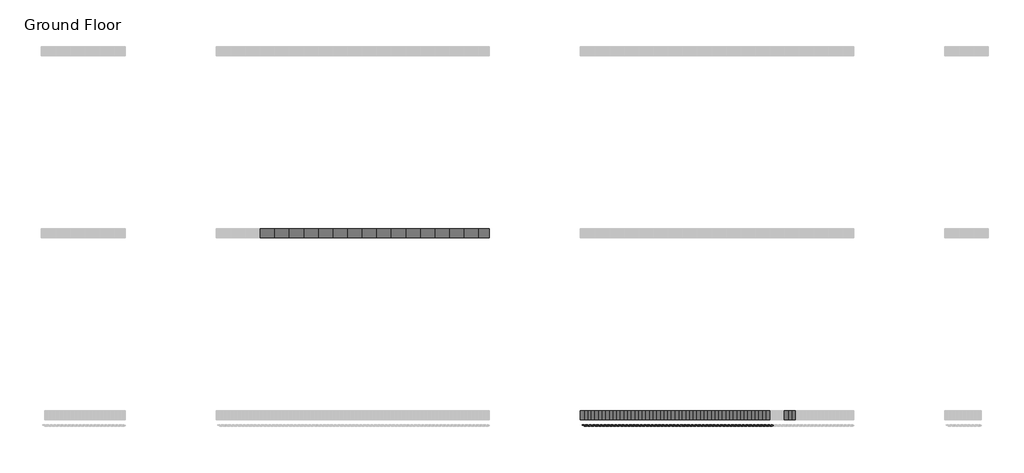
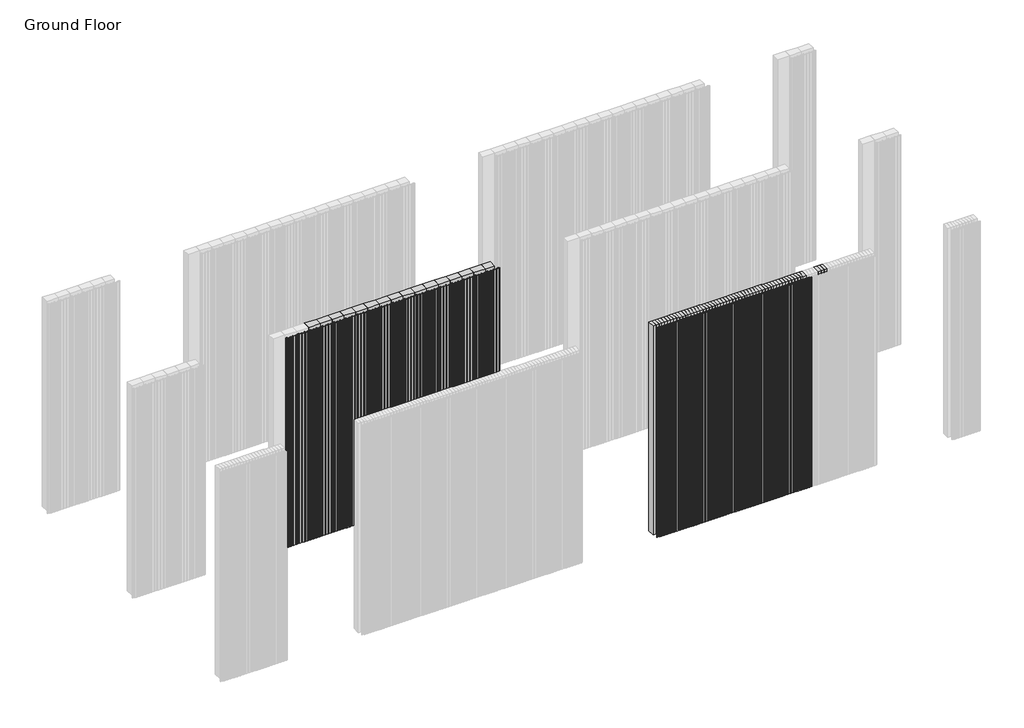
# One storey, part 26 of 350: 71 plates, 70 members.
"""IFC4 building model written with IfcOpenShell, lengths in millimetres."""

from ifc_helpers import new_model, si_unit, origin, place, context, project, spatial, transform, mapped, element, save
from components import rectangular_mullion_4c3290df, rectangular_mullion_73ab8564, empty_system_panel_empty_d822e783, empty_system_panel_empty_086c6263, empty_system_panel_empty_3b645525, empty_system_panel_empty_df7ddcff

model = new_model("IFC4")

# Units and contexts
model_context = context("Model", 3, world=origin())
ifc_project = project(units=[si_unit("LENGTHUNIT", "METRE", prefix="MILLI")], contexts=[model_context])

# Site, building, storey
site = spatial("IfcSite", under=ifc_project)
building = spatial("IfcBuilding", under=site)
storey = spatial("IfcBuildingStorey", under=building, Name="Ground Floor", Elevation=0.0)

# Members
placement = place(None, origin())
rectangular_mullion_shape = rectangular_mullion_4c3290df(model_context)
element("IfcMember", 1, ObjectType="Rectangular Mullion : Cladding_Aluminium_Modinex_AluSelekta_Castelation_ScreenClad_40_SpottedGum", at=placement, inside=storey, context=model_context, shape_type="MappedRepresentation", body=[
    mapped(rectangular_mullion_shape, transform((42996.4361642, 4968.2978302, 0.0), x_axis=(1.0, 0.0, 0.0), y_axis=(0.0, -1.0, 0.0), z_axis=(0.0, 0.0, -1.0))),
])
element("IfcMember", 2, ObjectType="Rectangular Mullion : Cladding_Aluminium_Modinex_AluSelekta_Castelation_ScreenClad_40_SpottedGum", at=placement, inside=storey, context=model_context, shape_type="MappedRepresentation", body=[
    mapped(rectangular_mullion_shape, transform((42956.4361642, 4968.2978302, 0.0), x_axis=(1.0, 0.0, 0.0), y_axis=(0.0, -1.0, 0.0), z_axis=(0.0, 0.0, -1.0))),
])
element("IfcMember", 3, ObjectType="Rectangular Mullion : Cladding_Aluminium_Modinex_AluSelekta_Castelation_ScreenClad_40_SpottedGum", at=placement, inside=storey, context=model_context, shape_type="MappedRepresentation", body=[
    mapped(rectangular_mullion_shape, transform((42916.4361642, 4968.2978302, 0.0), x_axis=(1.0, 0.0, 0.0), y_axis=(0.0, -1.0, 0.0), z_axis=(0.0, 0.0, -1.0))),
])
element("IfcMember", 4, ObjectType="Rectangular Mullion : Cladding_Aluminium_Modinex_AluSelekta_Castelation_ScreenClad_40_SpottedGum", at=placement, inside=storey, context=model_context, shape_type="MappedRepresentation", body=[
    mapped(rectangular_mullion_shape, transform((42876.4361642, 4968.2978302, 0.0), x_axis=(1.0, 0.0, 0.0), y_axis=(0.0, -1.0, 0.0), z_axis=(0.0, 0.0, -1.0))),
])
element("IfcMember", 5, ObjectType="Rectangular Mullion : Cladding_Aluminium_Modinex_AluSelekta_Castelation_ScreenClad_40_SpottedGum", at=placement, inside=storey, context=model_context, shape_type="MappedRepresentation", body=[
    mapped(rectangular_mullion_shape, transform((42836.4361642, 4968.2978302, 0.0), x_axis=(1.0, 0.0, 0.0), y_axis=(0.0, -1.0, 0.0), z_axis=(0.0, 0.0, -1.0))),
])
element("IfcMember", 6, ObjectType="Rectangular Mullion : Cladding_Aluminium_Modinex_AluSelekta_Castelation_ScreenClad_40_SpottedGum", at=placement, inside=storey, context=model_context, shape_type="MappedRepresentation", body=[
    mapped(rectangular_mullion_shape, transform((42796.4361642, 4968.2978302, 0.0), x_axis=(1.0, 0.0, 0.0), y_axis=(0.0, -1.0, 0.0), z_axis=(0.0, 0.0, -1.0))),
])
element("IfcMember", 7, ObjectType="Rectangular Mullion : Cladding_Aluminium_Modinex_AluSelekta_Castelation_ScreenClad_40_SpottedGum", at=placement, inside=storey, context=model_context, shape_type="MappedRepresentation", body=[
    mapped(rectangular_mullion_shape, transform((42756.4361642, 4968.2978302, 0.0), x_axis=(1.0, 0.0, 0.0), y_axis=(0.0, -1.0, 0.0), z_axis=(0.0, 0.0, -1.0))),
])
element("IfcMember", 8, ObjectType="Rectangular Mullion : Cladding_Aluminium_Modinex_AluSelekta_Castelation_ScreenClad_40_SpottedGum", at=placement, inside=storey, context=model_context, shape_type="MappedRepresentation", body=[
    mapped(rectangular_mullion_shape, transform((42716.4361642, 4968.2978302, 0.0), x_axis=(1.0, 0.0, 0.0), y_axis=(0.0, -1.0, 0.0), z_axis=(0.0, 0.0, -1.0))),
])
element("IfcMember", 9, ObjectType="Rectangular Mullion : Cladding_Aluminium_Modinex_AluSelekta_Castelation_ScreenClad_40_SpottedGum", at=placement, inside=storey, context=model_context, shape_type="MappedRepresentation", body=[
    mapped(rectangular_mullion_shape, transform((42676.4361642, 4968.2978302, 0.0), x_axis=(1.0, 0.0, 0.0), y_axis=(0.0, -1.0, 0.0), z_axis=(0.0, 0.0, -1.0))),
])
element("IfcMember", 10, ObjectType="Rectangular Mullion : Cladding_Aluminium_Modinex_AluSelekta_Castelation_ScreenClad_40_SpottedGum", at=placement, inside=storey, context=model_context, shape_type="MappedRepresentation", body=[
    mapped(rectangular_mullion_shape, transform((42636.4361642, 4968.2978302, 0.0), x_axis=(1.0, 0.0, 0.0), y_axis=(0.0, -1.0, 0.0), z_axis=(0.0, 0.0, -1.0))),
])
element("IfcMember", 11, ObjectType="Rectangular Mullion : Cladding_Aluminium_Modinex_AluSelekta_Castelation_ScreenClad_40_SpottedGum", at=placement, inside=storey, context=model_context, shape_type="MappedRepresentation", body=[
    mapped(rectangular_mullion_shape, transform((42596.4361642, 4968.2978302, 0.0), x_axis=(1.0, 0.0, 0.0), y_axis=(0.0, -1.0, 0.0), z_axis=(0.0, 0.0, -1.0))),
])
element("IfcMember", 12, ObjectType="Rectangular Mullion : Cladding_Aluminium_Modinex_AluSelekta_Castelation_ScreenClad_40_SpottedGum", at=placement, inside=storey, context=model_context, shape_type="MappedRepresentation", body=[
    mapped(rectangular_mullion_shape, transform((42556.4361642, 4968.2978302, 0.0), x_axis=(1.0, 0.0, 0.0), y_axis=(0.0, -1.0, 0.0), z_axis=(0.0, 0.0, -1.0))),
])
element("IfcMember", 13, ObjectType="Rectangular Mullion : Cladding_Aluminium_Modinex_AluSelekta_Castelation_ScreenClad_40_SpottedGum", at=placement, inside=storey, context=model_context, shape_type="MappedRepresentation", body=[
    mapped(rectangular_mullion_shape, transform((42516.4361642, 4968.2978302, 0.0), x_axis=(1.0, 0.0, 0.0), y_axis=(0.0, -1.0, 0.0), z_axis=(0.0, 0.0, -1.0))),
])
element("IfcMember", 14, ObjectType="Rectangular Mullion : Cladding_Aluminium_Modinex_AluSelekta_Castelation_ScreenClad_40_SpottedGum", at=placement, inside=storey, context=model_context, shape_type="MappedRepresentation", body=[
    mapped(rectangular_mullion_shape, transform((42476.4361642, 4968.2978302, 0.0), x_axis=(1.0, 0.0, 0.0), y_axis=(0.0, -1.0, 0.0), z_axis=(0.0, 0.0, -1.0))),
])
element("IfcMember", 15, ObjectType="Rectangular Mullion : Cladding_Aluminium_Modinex_AluSelekta_Castelation_ScreenClad_40_SpottedGum", at=placement, inside=storey, context=model_context, shape_type="MappedRepresentation", body=[
    mapped(rectangular_mullion_shape, transform((42436.4361642, 4968.2978302, 0.0), x_axis=(1.0, 0.0, 0.0), y_axis=(0.0, -1.0, 0.0), z_axis=(0.0, 0.0, -1.0))),
])
element("IfcMember", 16, ObjectType="Rectangular Mullion : Cladding_Aluminium_Modinex_AluSelekta_Castelation_ScreenClad_40_SpottedGum", at=placement, inside=storey, context=model_context, shape_type="MappedRepresentation", body=[
    mapped(rectangular_mullion_shape, transform((42396.4361642, 4968.2978302, 0.0), x_axis=(1.0, 0.0, 0.0), y_axis=(0.0, -1.0, 0.0), z_axis=(0.0, 0.0, -1.0))),
])
element("IfcMember", 17, ObjectType="Rectangular Mullion : Cladding_Aluminium_Modinex_AluSelekta_Castelation_ScreenClad_40_SpottedGum", at=placement, inside=storey, context=model_context, shape_type="MappedRepresentation", body=[
    mapped(rectangular_mullion_shape, transform((42356.4361642, 4968.2978302, 0.0), x_axis=(1.0, 0.0, 0.0), y_axis=(0.0, -1.0, 0.0), z_axis=(0.0, 0.0, -1.0))),
])
element("IfcMember", 18, ObjectType="Rectangular Mullion : Cladding_Aluminium_Modinex_AluSelekta_Castelation_ScreenClad_40_SpottedGum", at=placement, inside=storey, context=model_context, shape_type="MappedRepresentation", body=[
    mapped(rectangular_mullion_shape, transform((42316.4361642, 4968.2978302, 0.0), x_axis=(1.0, 0.0, 0.0), y_axis=(0.0, -1.0, 0.0), z_axis=(0.0, 0.0, -1.0))),
])
element("IfcMember", 19, ObjectType="Rectangular Mullion : Cladding_Aluminium_Modinex_AluSelekta_Castelation_ScreenClad_40_SpottedGum", at=placement, inside=storey, context=model_context, shape_type="MappedRepresentation", body=[
    mapped(rectangular_mullion_shape, transform((42276.4361642, 4968.2978302, 0.0), x_axis=(1.0, 0.0, 0.0), y_axis=(0.0, -1.0, 0.0), z_axis=(0.0, 0.0, -1.0))),
])
element("IfcMember", 20, ObjectType="Rectangular Mullion : Cladding_Aluminium_Modinex_AluSelekta_Castelation_ScreenClad_40_SpottedGum", at=placement, inside=storey, context=model_context, shape_type="MappedRepresentation", body=[
    mapped(rectangular_mullion_shape, transform((42236.4361642, 4968.2978302, 0.0), x_axis=(1.0, 0.0, 0.0), y_axis=(0.0, -1.0, 0.0), z_axis=(0.0, 0.0, -1.0))),
])
element("IfcMember", 21, ObjectType="Rectangular Mullion : Cladding_Aluminium_Modinex_AluSelekta_Castelation_ScreenClad_40_SpottedGum", at=placement, inside=storey, context=model_context, shape_type="MappedRepresentation", body=[
    mapped(rectangular_mullion_shape, transform((42196.4361642, 4968.2978302, 0.0), x_axis=(1.0, 0.0, 0.0), y_axis=(0.0, -1.0, 0.0), z_axis=(0.0, 0.0, -1.0))),
])
element("IfcMember", 22, ObjectType="Rectangular Mullion : Cladding_Aluminium_Modinex_AluSelekta_Castelation_ScreenClad_40_SpottedGum", at=placement, inside=storey, context=model_context, shape_type="MappedRepresentation", body=[
    mapped(rectangular_mullion_shape, transform((42156.4361642, 4968.2978302, 0.0), x_axis=(1.0, 0.0, 0.0), y_axis=(0.0, -1.0, 0.0), z_axis=(0.0, 0.0, -1.0))),
])
element("IfcMember", 23, ObjectType="Rectangular Mullion : Cladding_Aluminium_Modinex_AluSelekta_Castelation_ScreenClad_40_SpottedGum", at=placement, inside=storey, context=model_context, shape_type="MappedRepresentation", body=[
    mapped(rectangular_mullion_shape, transform((42116.4361642, 4968.2978302, 0.0), x_axis=(1.0, 0.0, 0.0), y_axis=(0.0, -1.0, 0.0), z_axis=(0.0, 0.0, -1.0))),
])
element("IfcMember", 24, ObjectType="Rectangular Mullion : Cladding_Aluminium_Modinex_AluSelekta_Castelation_ScreenClad_40_SpottedGum", at=placement, inside=storey, context=model_context, shape_type="MappedRepresentation", body=[
    mapped(rectangular_mullion_shape, transform((42076.4361642, 4968.2978302, 0.0), x_axis=(1.0, 0.0, 0.0), y_axis=(0.0, -1.0, 0.0), z_axis=(0.0, 0.0, -1.0))),
])
element("IfcMember", 25, ObjectType="Rectangular Mullion : Cladding_Aluminium_Modinex_AluSelekta_Castelation_ScreenClad_40_SpottedGum", at=placement, inside=storey, context=model_context, shape_type="MappedRepresentation", body=[
    mapped(rectangular_mullion_shape, transform((42036.4361642, 4968.2978302, 0.0), x_axis=(1.0, 0.0, 0.0), y_axis=(0.0, -1.0, 0.0), z_axis=(0.0, 0.0, -1.0))),
])
element("IfcMember", 26, ObjectType="Rectangular Mullion : Cladding_Aluminium_Modinex_AluSelekta_Castelation_ScreenClad_40_SpottedGum", at=placement, inside=storey, context=model_context, shape_type="MappedRepresentation", body=[
    mapped(rectangular_mullion_shape, transform((41996.4361642, 4968.2978302, 0.0), x_axis=(1.0, 0.0, 0.0), y_axis=(0.0, -1.0, 0.0), z_axis=(0.0, 0.0, -1.0))),
])
element("IfcMember", 27, ObjectType="Rectangular Mullion : Cladding_Aluminium_Modinex_AluSelekta_Castelation_ScreenClad_40_SpottedGum", at=placement, inside=storey, context=model_context, shape_type="MappedRepresentation", body=[
    mapped(rectangular_mullion_shape, transform((41956.4361642, 4968.2978302, 0.0), x_axis=(1.0, 0.0, 0.0), y_axis=(0.0, -1.0, 0.0), z_axis=(0.0, 0.0, -1.0))),
])
element("IfcMember", 28, ObjectType="Rectangular Mullion : Cladding_Aluminium_Modinex_AluSelekta_Castelation_ScreenClad_40_SpottedGum", at=placement, inside=storey, context=model_context, shape_type="MappedRepresentation", body=[
    mapped(rectangular_mullion_shape, transform((41916.4361642, 4968.2978302, 0.0), x_axis=(1.0, 0.0, 0.0), y_axis=(0.0, -1.0, 0.0), z_axis=(0.0, 0.0, -1.0))),
])
element("IfcMember", 29, ObjectType="Rectangular Mullion : Cladding_Aluminium_Modinex_AluSelekta_Castelation_ScreenClad_40_SpottedGum", at=placement, inside=storey, context=model_context, shape_type="MappedRepresentation", body=[
    mapped(rectangular_mullion_shape, transform((41876.4361642, 4968.2978302, 0.0), x_axis=(1.0, 0.0, 0.0), y_axis=(0.0, -1.0, 0.0), z_axis=(0.0, 0.0, -1.0))),
])
element("IfcMember", 30, ObjectType="Rectangular Mullion : Cladding_Aluminium_Modinex_AluSelekta_Castelation_ScreenClad_40_SpottedGum", at=placement, inside=storey, context=model_context, shape_type="MappedRepresentation", body=[
    mapped(rectangular_mullion_shape, transform((41836.4361642, 4968.2978302, 0.0), x_axis=(1.0, 0.0, 0.0), y_axis=(0.0, -1.0, 0.0), z_axis=(0.0, 0.0, -1.0))),
])
element("IfcMember", 31, ObjectType="Rectangular Mullion : Cladding_Aluminium_Modinex_AluSelekta_Castelation_ScreenClad_40_SpottedGum", at=placement, inside=storey, context=model_context, shape_type="MappedRepresentation", body=[
    mapped(rectangular_mullion_shape, transform((41796.4361642, 4968.2978302, 0.0), x_axis=(1.0, 0.0, 0.0), y_axis=(0.0, -1.0, 0.0), z_axis=(0.0, 0.0, -1.0))),
])
element("IfcMember", 32, ObjectType="Rectangular Mullion : Cladding_Aluminium_Modinex_AluSelekta_Castelation_ScreenClad_40_SpottedGum", at=placement, inside=storey, context=model_context, shape_type="MappedRepresentation", body=[
    mapped(rectangular_mullion_shape, transform((41756.4361642, 4968.2978302, 0.0), x_axis=(1.0, 0.0, 0.0), y_axis=(0.0, -1.0, 0.0), z_axis=(0.0, 0.0, -1.0))),
])
element("IfcMember", 33, ObjectType="Rectangular Mullion : Cladding_Aluminium_Modinex_AluSelekta_Castelation_ScreenClad_40_SpottedGum", at=placement, inside=storey, context=model_context, shape_type="MappedRepresentation", body=[
    mapped(rectangular_mullion_shape, transform((41716.4361642, 4968.2978302, 0.0), x_axis=(1.0, 0.0, 0.0), y_axis=(0.0, -1.0, 0.0), z_axis=(0.0, 0.0, -1.0))),
])
element("IfcMember", 34, ObjectType="Rectangular Mullion : Cladding_Aluminium_Modinex_AluSelekta_Castelation_ScreenClad_40_SpottedGum", at=placement, inside=storey, context=model_context, shape_type="MappedRepresentation", body=[
    mapped(rectangular_mullion_shape, transform((41676.4361642, 4968.2978302, 0.0), x_axis=(1.0, 0.0, 0.0), y_axis=(0.0, -1.0, 0.0), z_axis=(0.0, 0.0, -1.0))),
])
element("IfcMember", 35, ObjectType="Rectangular Mullion : Cladding_Aluminium_Modinex_AluSelekta_Castelation_ScreenClad_40_SpottedGum", at=placement, inside=storey, context=model_context, shape_type="MappedRepresentation", body=[
    mapped(rectangular_mullion_shape, transform((41636.4361642, 4968.2978302, 0.0), x_axis=(1.0, 0.0, 0.0), y_axis=(0.0, -1.0, 0.0), z_axis=(0.0, 0.0, -1.0))),
])
element("IfcMember", 36, ObjectType="Rectangular Mullion : Cladding_Aluminium_Modinex_AluSelekta_Castelation_ScreenClad_40_SpottedGum", at=placement, inside=storey, context=model_context, shape_type="MappedRepresentation", body=[
    mapped(rectangular_mullion_shape, transform((41596.4361642, 4968.2978302, 0.0), x_axis=(1.0, 0.0, 0.0), y_axis=(0.0, -1.0, 0.0), z_axis=(0.0, 0.0, -1.0))),
])
element("IfcMember", 37, ObjectType="Rectangular Mullion : Cladding_Aluminium_Modinex_AluSelekta_Castelation_ScreenClad_40_SpottedGum", at=placement, inside=storey, context=model_context, shape_type="MappedRepresentation", body=[
    mapped(rectangular_mullion_shape, transform((41556.4361642, 4968.2978302, 0.0), x_axis=(1.0, 0.0, 0.0), y_axis=(0.0, -1.0, 0.0), z_axis=(0.0, 0.0, -1.0))),
])
element("IfcMember", 38, ObjectType="Rectangular Mullion : Cladding_Aluminium_Modinex_AluSelekta_Castelation_ScreenClad_40_SpottedGum", at=placement, inside=storey, context=model_context, shape_type="MappedRepresentation", body=[
    mapped(rectangular_mullion_shape, transform((41516.4361642, 4968.2978302, 0.0), x_axis=(1.0, 0.0, 0.0), y_axis=(0.0, -1.0, 0.0), z_axis=(0.0, 0.0, -1.0))),
])
element("IfcMember", 39, ObjectType="Rectangular Mullion : Cladding_Aluminium_Modinex_AluSelekta_Castelation_ScreenClad_40_SpottedGum", at=placement, inside=storey, context=model_context, shape_type="MappedRepresentation", body=[
    mapped(rectangular_mullion_shape, transform((41476.4361642, 4968.2978302, 0.0), x_axis=(1.0, 0.0, 0.0), y_axis=(0.0, -1.0, 0.0), z_axis=(0.0, 0.0, -1.0))),
])
element("IfcMember", 40, ObjectType="Rectangular Mullion : Cladding_Aluminium_Modinex_AluSelekta_Castelation_ScreenClad_40_SpottedGum", at=placement, inside=storey, context=model_context, shape_type="MappedRepresentation", body=[
    mapped(rectangular_mullion_shape, transform((41436.4361642, 4968.2978302, 0.0), x_axis=(1.0, 0.0, 0.0), y_axis=(0.0, -1.0, 0.0), z_axis=(0.0, 0.0, -1.0))),
])
element("IfcMember", 41, ObjectType="Rectangular Mullion : Cladding_Aluminium_Modinex_AluSelekta_Castelation_ScreenClad_40_SpottedGum", at=placement, inside=storey, context=model_context, shape_type="MappedRepresentation", body=[
    mapped(rectangular_mullion_shape, transform((41396.4361642, 4968.2978302, 0.0), x_axis=(1.0, 0.0, 0.0), y_axis=(0.0, -1.0, 0.0), z_axis=(0.0, 0.0, -1.0))),
])
element("IfcMember", 42, ObjectType="Rectangular Mullion : Cladding_Aluminium_Modinex_AluSelekta_Castelation_ScreenClad_40_SpottedGum", at=placement, inside=storey, context=model_context, shape_type="MappedRepresentation", body=[
    mapped(rectangular_mullion_shape, transform((41356.4361642, 4968.2978302, 0.0), x_axis=(1.0, 0.0, 0.0), y_axis=(0.0, -1.0, 0.0), z_axis=(0.0, 0.0, -1.0))),
])
element("IfcMember", 43, ObjectType="Rectangular Mullion : Cladding_Aluminium_Modinex_AluSelekta_Castelation_ScreenClad_40_SpottedGum", at=placement, inside=storey, context=model_context, shape_type="MappedRepresentation", body=[
    mapped(rectangular_mullion_shape, transform((41316.4361642, 4968.2978302, 0.0), x_axis=(1.0, 0.0, 0.0), y_axis=(0.0, -1.0, 0.0), z_axis=(0.0, 0.0, -1.0))),
])
element("IfcMember", 44, ObjectType="Rectangular Mullion : Cladding_Aluminium_Modinex_AluSelekta_Castelation_ScreenClad_40_SpottedGum", at=placement, inside=storey, context=model_context, shape_type="MappedRepresentation", body=[
    mapped(rectangular_mullion_shape, transform((41276.4361642, 4968.2978302, 0.0), x_axis=(1.0, 0.0, 0.0), y_axis=(0.0, -1.0, 0.0), z_axis=(0.0, 0.0, -1.0))),
])
element("IfcMember", 45, ObjectType="Rectangular Mullion : Cladding_Aluminium_Modinex_AluSelekta_Castelation_ScreenClad_40_SpottedGum", at=placement, inside=storey, context=model_context, shape_type="MappedRepresentation", body=[
    mapped(rectangular_mullion_shape, transform((41236.4361642, 4968.2978302, 0.0), x_axis=(1.0, 0.0, 0.0), y_axis=(0.0, -1.0, 0.0), z_axis=(0.0, 0.0, -1.0))),
])
element("IfcMember", 46, ObjectType="Rectangular Mullion : Cladding_Aluminium_Modinex_AluSelekta_Castelation_ScreenClad_40_SpottedGum", at=placement, inside=storey, context=model_context, shape_type="MappedRepresentation", body=[
    mapped(rectangular_mullion_shape, transform((41196.4361642, 4968.2978302, 0.0), x_axis=(1.0, 0.0, 0.0), y_axis=(0.0, -1.0, 0.0), z_axis=(0.0, 0.0, -1.0))),
])
element("IfcMember", 47, ObjectType="Rectangular Mullion : Cladding_Aluminium_Modinex_AluSelekta_Castelation_ScreenClad_40_SpottedGum", at=placement, inside=storey, context=model_context, shape_type="MappedRepresentation", body=[
    mapped(rectangular_mullion_shape, transform((41156.4361642, 4968.2978302, 0.0), x_axis=(1.0, 0.0, 0.0), y_axis=(0.0, -1.0, 0.0), z_axis=(0.0, 0.0, -1.0))),
])
element("IfcMember", 48, ObjectType="Rectangular Mullion : Cladding_Aluminium_Modinex_AluSelekta_Castelation_ScreenClad_40_SpottedGum", at=placement, inside=storey, context=model_context, shape_type="MappedRepresentation", body=[
    mapped(rectangular_mullion_shape, transform((41116.4361642, 4968.2978302, 0.0), x_axis=(1.0, 0.0, 0.0), y_axis=(0.0, -1.0, 0.0), z_axis=(0.0, 0.0, -1.0))),
])
element("IfcMember", 49, ObjectType="Rectangular Mullion : Cladding_Aluminium_Modinex_AluSelekta_Castelation_ScreenClad_40_SpottedGum", at=placement, inside=storey, context=model_context, shape_type="MappedRepresentation", body=[
    mapped(rectangular_mullion_shape, transform((41076.4361642, 4968.2978302, 0.0), x_axis=(1.0, 0.0, 0.0), y_axis=(0.0, -1.0, 0.0), z_axis=(0.0, 0.0, -1.0))),
])
element("IfcMember", 50, ObjectType="Rectangular Mullion : Cladding_Aluminium_Modinex_AluSelekta_Castelation_ScreenClad_40_SpottedGum", at=placement, inside=storey, context=model_context, shape_type="MappedRepresentation", body=[
    mapped(rectangular_mullion_shape, transform((41036.4361642, 4968.2978302, 0.0), x_axis=(1.0, 0.0, 0.0), y_axis=(0.0, -1.0, 0.0), z_axis=(0.0, 0.0, -1.0))),
])
element("IfcMember", 51, ObjectType="Rectangular Mullion : Cladding_Aluminium_Modinex_AluSelekta_Castelation_ScreenClad_40_SpottedGum", at=placement, inside=storey, context=model_context, shape_type="MappedRepresentation", body=[
    mapped(rectangular_mullion_shape, transform((40996.4361642, 4968.2978302, 0.0), x_axis=(1.0, 0.0, 0.0), y_axis=(0.0, -1.0, 0.0), z_axis=(0.0, 0.0, -1.0))),
])
element("IfcMember", 52, ObjectType="Rectangular Mullion : Cladding_Aluminium_Modinex_AluSelekta_Castelation_ScreenClad_40_SpottedGum", at=placement, inside=storey, context=model_context, shape_type="MappedRepresentation", body=[
    mapped(rectangular_mullion_shape, transform((40956.4361642, 4968.2978302, 0.0), x_axis=(1.0, 0.0, 0.0), y_axis=(0.0, -1.0, 0.0), z_axis=(0.0, 0.0, -1.0))),
])
rectangular_mullion_2_shape = rectangular_mullion_73ab8564(model_context)
element("IfcMember", 53, ObjectType="Rectangular Mullion : Cladding_Aluminium_Modinex_AluSelekta_Castelation_ScreenClad_160_EnglishOak", at=placement, inside=storey, context=model_context, shape_type="MappedRepresentation", body=[
    mapped(rectangular_mullion_2_shape, transform((37076.4361642, 6968.2978302, 0.0), x_axis=(1.0, 0.0, 0.0), y_axis=(0.0, -1.0, 0.0), z_axis=(0.0, 0.0, -1.0))),
])
element("IfcMember", 54, ObjectType="Rectangular Mullion : Cladding_Aluminium_Modinex_AluSelekta_Castelation_ScreenClad_160_EnglishOak", at=placement, inside=storey, context=model_context, shape_type="MappedRepresentation", body=[
    mapped(rectangular_mullion_2_shape, transform((37236.4361642, 6968.2978302, 0.0), x_axis=(1.0, 0.0, 0.0), y_axis=(0.0, -1.0, 0.0), z_axis=(0.0, 0.0, -1.0))),
])
element("IfcMember", 55, ObjectType="Rectangular Mullion : Cladding_Aluminium_Modinex_AluSelekta_Castelation_ScreenClad_160_EnglishOak", at=placement, inside=storey, context=model_context, shape_type="MappedRepresentation", body=[
    mapped(rectangular_mullion_2_shape, transform((37396.4361642, 6968.2978302, 0.0), x_axis=(1.0, 0.0, 0.0), y_axis=(0.0, -1.0, 0.0), z_axis=(0.0, 0.0, -1.0))),
])
element("IfcMember", 56, ObjectType="Rectangular Mullion : Cladding_Aluminium_Modinex_AluSelekta_Castelation_ScreenClad_160_EnglishOak", at=placement, inside=storey, context=model_context, shape_type="MappedRepresentation", body=[
    mapped(rectangular_mullion_2_shape, transform((37556.4361642, 6968.2978302, 0.0), x_axis=(1.0, 0.0, 0.0), y_axis=(0.0, -1.0, 0.0), z_axis=(0.0, 0.0, -1.0))),
])
element("IfcMember", 57, ObjectType="Rectangular Mullion : Cladding_Aluminium_Modinex_AluSelekta_Castelation_ScreenClad_160_EnglishOak", at=placement, inside=storey, context=model_context, shape_type="MappedRepresentation", body=[
    mapped(rectangular_mullion_2_shape, transform((37716.4361642, 6968.2978302, 0.0), x_axis=(1.0, 0.0, 0.0), y_axis=(0.0, -1.0, 0.0), z_axis=(0.0, 0.0, -1.0))),
])
element("IfcMember", 58, ObjectType="Rectangular Mullion : Cladding_Aluminium_Modinex_AluSelekta_Castelation_ScreenClad_160_EnglishOak", at=placement, inside=storey, context=model_context, shape_type="MappedRepresentation", body=[
    mapped(rectangular_mullion_2_shape, transform((37876.4361642, 6968.2978302, 0.0), x_axis=(1.0, 0.0, 0.0), y_axis=(0.0, -1.0, 0.0), z_axis=(0.0, 0.0, -1.0))),
])
element("IfcMember", 59, ObjectType="Rectangular Mullion : Cladding_Aluminium_Modinex_AluSelekta_Castelation_ScreenClad_160_EnglishOak", at=placement, inside=storey, context=model_context, shape_type="MappedRepresentation", body=[
    mapped(rectangular_mullion_2_shape, transform((38036.4361642, 6968.2978302, 0.0), x_axis=(1.0, 0.0, 0.0), y_axis=(0.0, -1.0, 0.0), z_axis=(0.0, 0.0, -1.0))),
])
element("IfcMember", 60, ObjectType="Rectangular Mullion : Cladding_Aluminium_Modinex_AluSelekta_Castelation_ScreenClad_160_EnglishOak", at=placement, inside=storey, context=model_context, shape_type="MappedRepresentation", body=[
    mapped(rectangular_mullion_2_shape, transform((38196.4361642, 6968.2978302, 0.0), x_axis=(1.0, 0.0, 0.0), y_axis=(0.0, -1.0, 0.0), z_axis=(0.0, 0.0, -1.0))),
])
element("IfcMember", 61, ObjectType="Rectangular Mullion : Cladding_Aluminium_Modinex_AluSelekta_Castelation_ScreenClad_160_EnglishOak", at=placement, inside=storey, context=model_context, shape_type="MappedRepresentation", body=[
    mapped(rectangular_mullion_2_shape, transform((38356.4361642, 6968.2978302, 0.0), x_axis=(1.0, 0.0, 0.0), y_axis=(0.0, -1.0, 0.0), z_axis=(0.0, 0.0, -1.0))),
])
element("IfcMember", 62, ObjectType="Rectangular Mullion : Cladding_Aluminium_Modinex_AluSelekta_Castelation_ScreenClad_160_EnglishOak", at=placement, inside=storey, context=model_context, shape_type="MappedRepresentation", body=[
    mapped(rectangular_mullion_2_shape, transform((38516.4361642, 6968.2978302, 0.0), x_axis=(1.0, 0.0, 0.0), y_axis=(0.0, -1.0, 0.0), z_axis=(0.0, 0.0, -1.0))),
])
element("IfcMember", 63, ObjectType="Rectangular Mullion : Cladding_Aluminium_Modinex_AluSelekta_Castelation_ScreenClad_160_EnglishOak", at=placement, inside=storey, context=model_context, shape_type="MappedRepresentation", body=[
    mapped(rectangular_mullion_2_shape, transform((38676.4361642, 6968.2978302, 0.0), x_axis=(1.0, 0.0, 0.0), y_axis=(0.0, -1.0, 0.0), z_axis=(0.0, 0.0, -1.0))),
])
element("IfcMember", 64, ObjectType="Rectangular Mullion : Cladding_Aluminium_Modinex_AluSelekta_Castelation_ScreenClad_160_EnglishOak", at=placement, inside=storey, context=model_context, shape_type="MappedRepresentation", body=[
    mapped(rectangular_mullion_2_shape, transform((38836.4361642, 6968.2978302, 0.0), x_axis=(1.0, 0.0, 0.0), y_axis=(0.0, -1.0, 0.0), z_axis=(0.0, 0.0, -1.0))),
])
element("IfcMember", 65, ObjectType="Rectangular Mullion : Cladding_Aluminium_Modinex_AluSelekta_Castelation_ScreenClad_160_EnglishOak", at=placement, inside=storey, context=model_context, shape_type="MappedRepresentation", body=[
    mapped(rectangular_mullion_2_shape, transform((38996.4361642, 6968.2978302, 0.0), x_axis=(1.0, 0.0, 0.0), y_axis=(0.0, -1.0, 0.0), z_axis=(0.0, 0.0, -1.0))),
])
element("IfcMember", 66, ObjectType="Rectangular Mullion : Cladding_Aluminium_Modinex_AluSelekta_Castelation_ScreenClad_160_EnglishOak", at=placement, inside=storey, context=model_context, shape_type="MappedRepresentation", body=[
    mapped(rectangular_mullion_2_shape, transform((39156.4361642, 6968.2978302, 0.0), x_axis=(1.0, 0.0, 0.0), y_axis=(0.0, -1.0, 0.0), z_axis=(0.0, 0.0, -1.0))),
])
element("IfcMember", 67, ObjectType="Rectangular Mullion : Cladding_Aluminium_Modinex_AluSelekta_Castelation_ScreenClad_160_EnglishOak", at=placement, inside=storey, context=model_context, shape_type="MappedRepresentation", body=[
    mapped(rectangular_mullion_2_shape, transform((39316.4361642, 6968.2978302, 0.0), x_axis=(1.0, 0.0, 0.0), y_axis=(0.0, -1.0, 0.0), z_axis=(0.0, 0.0, -1.0))),
])
element("IfcMember", 68, ObjectType="Rectangular Mullion : Cladding_Aluminium_Modinex_AluSelekta_Castelation_ScreenClad_160_EnglishOak", at=placement, inside=storey, context=model_context, shape_type="MappedRepresentation", body=[
    mapped(rectangular_mullion_2_shape, transform((39476.4361642, 6968.2978302, 0.0), x_axis=(1.0, 0.0, 0.0), y_axis=(0.0, -1.0, 0.0), z_axis=(0.0, 0.0, -1.0))),
])
element("IfcMember", 69, ObjectType="Rectangular Mullion : Cladding_Aluminium_Modinex_AluSelekta_Castelation_ScreenClad_160_EnglishOak", at=placement, inside=storey, context=model_context, shape_type="MappedRepresentation", body=[
    mapped(rectangular_mullion_2_shape, transform((39636.4361642, 6968.2978302, 0.0), x_axis=(1.0, 0.0, 0.0), y_axis=(0.0, -1.0, 0.0), z_axis=(0.0, 0.0, -1.0))),
])
element("IfcMember", 70, ObjectType="Rectangular Mullion : Cladding_Aluminium_Modinex_AluSelekta_Castelation_ScreenClad_160_EnglishOak", at=placement, inside=storey, context=model_context, shape_type="MappedRepresentation", body=[
    mapped(rectangular_mullion_2_shape, transform((39796.4361642, 6968.2978302, 0.0), x_axis=(1.0, 0.0, 0.0), y_axis=(0.0, -1.0, 0.0), z_axis=(0.0, 0.0, -1.0))),
])

# Plates
empty_system_panel_empty_shape = empty_system_panel_empty_d822e783(model_context)
element("IfcPlate", 71, ObjectType="Empty System Panel : Empty", at=placement, inside=storey, context=model_context, shape_type="MappedRepresentation", body=[
    mapped(empty_system_panel_empty_shape, transform((40936.4361641, 4968.2978302, 0.0), x_axis=(1.0, 0.0, 0.0), y_axis=(0.0, 1.0, 0.0), z_axis=(0.0, 0.0, 1.0))),
])
empty_system_panel_empty_2_shape = empty_system_panel_empty_086c6263(model_context)
element("IfcPlate", 72, ObjectType="Empty System Panel : Empty", at=placement, inside=storey, context=model_context, shape_type="MappedRepresentation", body=[
    mapped(empty_system_panel_empty_2_shape, transform((43176.4361642, 4968.2978302, 0.0), x_axis=(1.0, 0.0, 0.0), y_axis=(0.0, 1.0, 0.0), z_axis=(0.0, 0.0, 1.0))),
])
element("IfcPlate", 73, ObjectType="Empty System Panel : Empty", at=placement, inside=storey, context=model_context, shape_type="MappedRepresentation", body=[
    mapped(empty_system_panel_empty_2_shape, transform((43216.4361642, 4968.2978302, 0.0), x_axis=(1.0, 0.0, 0.0), y_axis=(0.0, 1.0, 0.0), z_axis=(0.0, 0.0, 1.0))),
])
element("IfcPlate", 74, ObjectType="Empty System Panel : Empty", at=placement, inside=storey, context=model_context, shape_type="MappedRepresentation", body=[
    mapped(empty_system_panel_empty_2_shape, transform((43256.4361642, 4968.2978302, 0.0), x_axis=(1.0, 0.0, 0.0), y_axis=(0.0, 1.0, 0.0), z_axis=(0.0, 0.0, 1.0))),
])
element("IfcPlate", 75, ObjectType="Empty System Panel : Empty", at=placement, inside=storey, context=model_context, shape_type="MappedRepresentation", body=[
    mapped(empty_system_panel_empty_2_shape, transform((42976.4361642, 4968.2978302, 0.0), x_axis=(1.0, 0.0, 0.0), y_axis=(0.0, 1.0, 0.0), z_axis=(0.0, 0.0, 1.0))),
])
element("IfcPlate", 76, ObjectType="Empty System Panel : Empty", at=placement, inside=storey, context=model_context, shape_type="MappedRepresentation", body=[
    mapped(empty_system_panel_empty_2_shape, transform((42936.4361642, 4968.2978302, 0.0), x_axis=(1.0, 0.0, 0.0), y_axis=(0.0, 1.0, 0.0), z_axis=(0.0, 0.0, 1.0))),
])
element("IfcPlate", 77, ObjectType="Empty System Panel : Empty", at=placement, inside=storey, context=model_context, shape_type="MappedRepresentation", body=[
    mapped(empty_system_panel_empty_2_shape, transform((42896.4361642, 4968.2978302, 0.0), x_axis=(1.0, 0.0, 0.0), y_axis=(0.0, 1.0, 0.0), z_axis=(0.0, 0.0, 1.0))),
])
element("IfcPlate", 78, ObjectType="Empty System Panel : Empty", at=placement, inside=storey, context=model_context, shape_type="MappedRepresentation", body=[
    mapped(empty_system_panel_empty_2_shape, transform((42856.4361642, 4968.2978302, 0.0), x_axis=(1.0, 0.0, 0.0), y_axis=(0.0, 1.0, 0.0), z_axis=(0.0, 0.0, 1.0))),
])
element("IfcPlate", 79, ObjectType="Empty System Panel : Empty", at=placement, inside=storey, context=model_context, shape_type="MappedRepresentation", body=[
    mapped(empty_system_panel_empty_2_shape, transform((42816.4361642, 4968.2978302, 0.0), x_axis=(1.0, 0.0, 0.0), y_axis=(0.0, 1.0, 0.0), z_axis=(0.0, 0.0, 1.0))),
])
element("IfcPlate", 80, ObjectType="Empty System Panel : Empty", at=placement, inside=storey, context=model_context, shape_type="MappedRepresentation", body=[
    mapped(empty_system_panel_empty_2_shape, transform((42776.4361642, 4968.2978302, 0.0), x_axis=(1.0, 0.0, 0.0), y_axis=(0.0, 1.0, 0.0), z_axis=(0.0, 0.0, 1.0))),
])
element("IfcPlate", 81, ObjectType="Empty System Panel : Empty", at=placement, inside=storey, context=model_context, shape_type="MappedRepresentation", body=[
    mapped(empty_system_panel_empty_2_shape, transform((42736.4361642, 4968.2978302, 0.0), x_axis=(1.0, 0.0, 0.0), y_axis=(0.0, 1.0, 0.0), z_axis=(0.0, 0.0, 1.0))),
])
element("IfcPlate", 82, ObjectType="Empty System Panel : Empty", at=placement, inside=storey, context=model_context, shape_type="MappedRepresentation", body=[
    mapped(empty_system_panel_empty_2_shape, transform((42696.4361642, 4968.2978302, 0.0), x_axis=(1.0, 0.0, 0.0), y_axis=(0.0, 1.0, 0.0), z_axis=(0.0, 0.0, 1.0))),
])
element("IfcPlate", 83, ObjectType="Empty System Panel : Empty", at=placement, inside=storey, context=model_context, shape_type="MappedRepresentation", body=[
    mapped(empty_system_panel_empty_2_shape, transform((42656.4361642, 4968.2978302, 0.0), x_axis=(1.0, 0.0, 0.0), y_axis=(0.0, 1.0, 0.0), z_axis=(0.0, 0.0, 1.0))),
])
element("IfcPlate", 84, ObjectType="Empty System Panel : Empty", at=placement, inside=storey, context=model_context, shape_type="MappedRepresentation", body=[
    mapped(empty_system_panel_empty_2_shape, transform((42616.4361642, 4968.2978302, 0.0), x_axis=(1.0, 0.0, 0.0), y_axis=(0.0, 1.0, 0.0), z_axis=(0.0, 0.0, 1.0))),
])
element("IfcPlate", 85, ObjectType="Empty System Panel : Empty", at=placement, inside=storey, context=model_context, shape_type="MappedRepresentation", body=[
    mapped(empty_system_panel_empty_2_shape, transform((42576.4361642, 4968.2978302, 0.0), x_axis=(1.0, 0.0, 0.0), y_axis=(0.0, 1.0, 0.0), z_axis=(0.0, 0.0, 1.0))),
])
element("IfcPlate", 86, ObjectType="Empty System Panel : Empty", at=placement, inside=storey, context=model_context, shape_type="MappedRepresentation", body=[
    mapped(empty_system_panel_empty_2_shape, transform((42536.4361642, 4968.2978302, 0.0), x_axis=(1.0, 0.0, 0.0), y_axis=(0.0, 1.0, 0.0), z_axis=(0.0, 0.0, 1.0))),
])
element("IfcPlate", 87, ObjectType="Empty System Panel : Empty", at=placement, inside=storey, context=model_context, shape_type="MappedRepresentation", body=[
    mapped(empty_system_panel_empty_2_shape, transform((42496.4361642, 4968.2978302, 0.0), x_axis=(1.0, 0.0, 0.0), y_axis=(0.0, 1.0, 0.0), z_axis=(0.0, 0.0, 1.0))),
])
element("IfcPlate", 88, ObjectType="Empty System Panel : Empty", at=placement, inside=storey, context=model_context, shape_type="MappedRepresentation", body=[
    mapped(empty_system_panel_empty_2_shape, transform((42456.4361642, 4968.2978302, 0.0), x_axis=(1.0, 0.0, 0.0), y_axis=(0.0, 1.0, 0.0), z_axis=(0.0, 0.0, 1.0))),
])
element("IfcPlate", 89, ObjectType="Empty System Panel : Empty", at=placement, inside=storey, context=model_context, shape_type="MappedRepresentation", body=[
    mapped(empty_system_panel_empty_2_shape, transform((42416.4361642, 4968.2978302, 0.0), x_axis=(1.0, 0.0, 0.0), y_axis=(0.0, 1.0, 0.0), z_axis=(0.0, 0.0, 1.0))),
])
element("IfcPlate", 90, ObjectType="Empty System Panel : Empty", at=placement, inside=storey, context=model_context, shape_type="MappedRepresentation", body=[
    mapped(empty_system_panel_empty_2_shape, transform((42376.4361642, 4968.2978302, 0.0), x_axis=(1.0, 0.0, 0.0), y_axis=(0.0, 1.0, 0.0), z_axis=(0.0, 0.0, 1.0))),
])
element("IfcPlate", 91, ObjectType="Empty System Panel : Empty", at=placement, inside=storey, context=model_context, shape_type="MappedRepresentation", body=[
    mapped(empty_system_panel_empty_2_shape, transform((42336.4361642, 4968.2978302, 0.0), x_axis=(1.0, 0.0, 0.0), y_axis=(0.0, 1.0, 0.0), z_axis=(0.0, 0.0, 1.0))),
])
element("IfcPlate", 92, ObjectType="Empty System Panel : Empty", at=placement, inside=storey, context=model_context, shape_type="MappedRepresentation", body=[
    mapped(empty_system_panel_empty_2_shape, transform((42296.4361642, 4968.2978302, 0.0), x_axis=(1.0, 0.0, 0.0), y_axis=(0.0, 1.0, 0.0), z_axis=(0.0, 0.0, 1.0))),
])
element("IfcPlate", 93, ObjectType="Empty System Panel : Empty", at=placement, inside=storey, context=model_context, shape_type="MappedRepresentation", body=[
    mapped(empty_system_panel_empty_2_shape, transform((42256.4361642, 4968.2978302, 0.0), x_axis=(1.0, 0.0, 0.0), y_axis=(0.0, 1.0, 0.0), z_axis=(0.0, 0.0, 1.0))),
])
element("IfcPlate", 94, ObjectType="Empty System Panel : Empty", at=placement, inside=storey, context=model_context, shape_type="MappedRepresentation", body=[
    mapped(empty_system_panel_empty_2_shape, transform((42216.4361642, 4968.2978302, 0.0), x_axis=(1.0, 0.0, 0.0), y_axis=(0.0, 1.0, 0.0), z_axis=(0.0, 0.0, 1.0))),
])
element("IfcPlate", 95, ObjectType="Empty System Panel : Empty", at=placement, inside=storey, context=model_context, shape_type="MappedRepresentation", body=[
    mapped(empty_system_panel_empty_2_shape, transform((42176.4361642, 4968.2978302, 0.0), x_axis=(1.0, 0.0, 0.0), y_axis=(0.0, 1.0, 0.0), z_axis=(0.0, 0.0, 1.0))),
])
element("IfcPlate", 96, ObjectType="Empty System Panel : Empty", at=placement, inside=storey, context=model_context, shape_type="MappedRepresentation", body=[
    mapped(empty_system_panel_empty_2_shape, transform((42136.4361642, 4968.2978302, 0.0), x_axis=(1.0, 0.0, 0.0), y_axis=(0.0, 1.0, 0.0), z_axis=(0.0, 0.0, 1.0))),
])
element("IfcPlate", 97, ObjectType="Empty System Panel : Empty", at=placement, inside=storey, context=model_context, shape_type="MappedRepresentation", body=[
    mapped(empty_system_panel_empty_2_shape, transform((42096.4361642, 4968.2978302, 0.0), x_axis=(1.0, 0.0, 0.0), y_axis=(0.0, 1.0, 0.0), z_axis=(0.0, 0.0, 1.0))),
])
element("IfcPlate", 98, ObjectType="Empty System Panel : Empty", at=placement, inside=storey, context=model_context, shape_type="MappedRepresentation", body=[
    mapped(empty_system_panel_empty_2_shape, transform((42056.4361642, 4968.2978302, 0.0), x_axis=(1.0, 0.0, 0.0), y_axis=(0.0, 1.0, 0.0), z_axis=(0.0, 0.0, 1.0))),
])
element("IfcPlate", 99, ObjectType="Empty System Panel : Empty", at=placement, inside=storey, context=model_context, shape_type="MappedRepresentation", body=[
    mapped(empty_system_panel_empty_2_shape, transform((42016.4361642, 4968.2978302, 0.0), x_axis=(1.0, 0.0, 0.0), y_axis=(0.0, 1.0, 0.0), z_axis=(0.0, 0.0, 1.0))),
])
element("IfcPlate", 100, ObjectType="Empty System Panel : Empty", at=placement, inside=storey, context=model_context, shape_type="MappedRepresentation", body=[
    mapped(empty_system_panel_empty_2_shape, transform((41976.4361642, 4968.2978302, 0.0), x_axis=(1.0, 0.0, 0.0), y_axis=(0.0, 1.0, 0.0), z_axis=(0.0, 0.0, 1.0))),
])
element("IfcPlate", 101, ObjectType="Empty System Panel : Empty", at=placement, inside=storey, context=model_context, shape_type="MappedRepresentation", body=[
    mapped(empty_system_panel_empty_2_shape, transform((41936.4361642, 4968.2978302, 0.0), x_axis=(1.0, 0.0, 0.0), y_axis=(0.0, 1.0, 0.0), z_axis=(0.0, 0.0, 1.0))),
])
element("IfcPlate", 102, ObjectType="Empty System Panel : Empty", at=placement, inside=storey, context=model_context, shape_type="MappedRepresentation", body=[
    mapped(empty_system_panel_empty_2_shape, transform((41896.4361642, 4968.2978302, 0.0), x_axis=(1.0, 0.0, 0.0), y_axis=(0.0, 1.0, 0.0), z_axis=(0.0, 0.0, 1.0))),
])
element("IfcPlate", 103, ObjectType="Empty System Panel : Empty", at=placement, inside=storey, context=model_context, shape_type="MappedRepresentation", body=[
    mapped(empty_system_panel_empty_2_shape, transform((41856.4361642, 4968.2978302, 0.0), x_axis=(1.0, 0.0, 0.0), y_axis=(0.0, 1.0, 0.0), z_axis=(0.0, 0.0, 1.0))),
])
element("IfcPlate", 104, ObjectType="Empty System Panel : Empty", at=placement, inside=storey, context=model_context, shape_type="MappedRepresentation", body=[
    mapped(empty_system_panel_empty_2_shape, transform((41816.4361642, 4968.2978302, 0.0), x_axis=(1.0, 0.0, 0.0), y_axis=(0.0, 1.0, 0.0), z_axis=(0.0, 0.0, 1.0))),
])
element("IfcPlate", 105, ObjectType="Empty System Panel : Empty", at=placement, inside=storey, context=model_context, shape_type="MappedRepresentation", body=[
    mapped(empty_system_panel_empty_2_shape, transform((41776.4361642, 4968.2978302, 0.0), x_axis=(1.0, 0.0, 0.0), y_axis=(0.0, 1.0, 0.0), z_axis=(0.0, 0.0, 1.0))),
])
element("IfcPlate", 106, ObjectType="Empty System Panel : Empty", at=placement, inside=storey, context=model_context, shape_type="MappedRepresentation", body=[
    mapped(empty_system_panel_empty_2_shape, transform((41736.4361642, 4968.2978302, 0.0), x_axis=(1.0, 0.0, 0.0), y_axis=(0.0, 1.0, 0.0), z_axis=(0.0, 0.0, 1.0))),
])
element("IfcPlate", 107, ObjectType="Empty System Panel : Empty", at=placement, inside=storey, context=model_context, shape_type="MappedRepresentation", body=[
    mapped(empty_system_panel_empty_2_shape, transform((41696.4361642, 4968.2978302, 0.0), x_axis=(1.0, 0.0, 0.0), y_axis=(0.0, 1.0, 0.0), z_axis=(0.0, 0.0, 1.0))),
])
element("IfcPlate", 108, ObjectType="Empty System Panel : Empty", at=placement, inside=storey, context=model_context, shape_type="MappedRepresentation", body=[
    mapped(empty_system_panel_empty_2_shape, transform((41656.4361642, 4968.2978302, 0.0), x_axis=(1.0, 0.0, 0.0), y_axis=(0.0, 1.0, 0.0), z_axis=(0.0, 0.0, 1.0))),
])
element("IfcPlate", 109, ObjectType="Empty System Panel : Empty", at=placement, inside=storey, context=model_context, shape_type="MappedRepresentation", body=[
    mapped(empty_system_panel_empty_2_shape, transform((41616.4361642, 4968.2978302, 0.0), x_axis=(1.0, 0.0, 0.0), y_axis=(0.0, 1.0, 0.0), z_axis=(0.0, 0.0, 1.0))),
])
element("IfcPlate", 110, ObjectType="Empty System Panel : Empty", at=placement, inside=storey, context=model_context, shape_type="MappedRepresentation", body=[
    mapped(empty_system_panel_empty_2_shape, transform((41576.4361642, 4968.2978302, 0.0), x_axis=(1.0, 0.0, 0.0), y_axis=(0.0, 1.0, 0.0), z_axis=(0.0, 0.0, 1.0))),
])
element("IfcPlate", 111, ObjectType="Empty System Panel : Empty", at=placement, inside=storey, context=model_context, shape_type="MappedRepresentation", body=[
    mapped(empty_system_panel_empty_2_shape, transform((41536.4361642, 4968.2978302, 0.0), x_axis=(1.0, 0.0, 0.0), y_axis=(0.0, 1.0, 0.0), z_axis=(0.0, 0.0, 1.0))),
])
element("IfcPlate", 112, ObjectType="Empty System Panel : Empty", at=placement, inside=storey, context=model_context, shape_type="MappedRepresentation", body=[
    mapped(empty_system_panel_empty_2_shape, transform((41496.4361642, 4968.2978302, 0.0), x_axis=(1.0, 0.0, 0.0), y_axis=(0.0, 1.0, 0.0), z_axis=(0.0, 0.0, 1.0))),
])
element("IfcPlate", 113, ObjectType="Empty System Panel : Empty", at=placement, inside=storey, context=model_context, shape_type="MappedRepresentation", body=[
    mapped(empty_system_panel_empty_2_shape, transform((41456.4361642, 4968.2978302, 0.0), x_axis=(1.0, 0.0, 0.0), y_axis=(0.0, 1.0, 0.0), z_axis=(0.0, 0.0, 1.0))),
])
element("IfcPlate", 114, ObjectType="Empty System Panel : Empty", at=placement, inside=storey, context=model_context, shape_type="MappedRepresentation", body=[
    mapped(empty_system_panel_empty_2_shape, transform((41416.4361642, 4968.2978302, 0.0), x_axis=(1.0, 0.0, 0.0), y_axis=(0.0, 1.0, 0.0), z_axis=(0.0, 0.0, 1.0))),
])
element("IfcPlate", 115, ObjectType="Empty System Panel : Empty", at=placement, inside=storey, context=model_context, shape_type="MappedRepresentation", body=[
    mapped(empty_system_panel_empty_2_shape, transform((41376.4361642, 4968.2978302, 0.0), x_axis=(1.0, 0.0, 0.0), y_axis=(0.0, 1.0, 0.0), z_axis=(0.0, 0.0, 1.0))),
])
element("IfcPlate", 116, ObjectType="Empty System Panel : Empty", at=placement, inside=storey, context=model_context, shape_type="MappedRepresentation", body=[
    mapped(empty_system_panel_empty_2_shape, transform((41336.4361642, 4968.2978302, 0.0), x_axis=(1.0, 0.0, 0.0), y_axis=(0.0, 1.0, 0.0), z_axis=(0.0, 0.0, 1.0))),
])
element("IfcPlate", 117, ObjectType="Empty System Panel : Empty", at=placement, inside=storey, context=model_context, shape_type="MappedRepresentation", body=[
    mapped(empty_system_panel_empty_2_shape, transform((41296.4361642, 4968.2978302, 0.0), x_axis=(1.0, 0.0, 0.0), y_axis=(0.0, 1.0, 0.0), z_axis=(0.0, 0.0, 1.0))),
])
element("IfcPlate", 118, ObjectType="Empty System Panel : Empty", at=placement, inside=storey, context=model_context, shape_type="MappedRepresentation", body=[
    mapped(empty_system_panel_empty_2_shape, transform((41256.4361642, 4968.2978302, 0.0), x_axis=(1.0, 0.0, 0.0), y_axis=(0.0, 1.0, 0.0), z_axis=(0.0, 0.0, 1.0))),
])
element("IfcPlate", 119, ObjectType="Empty System Panel : Empty", at=placement, inside=storey, context=model_context, shape_type="MappedRepresentation", body=[
    mapped(empty_system_panel_empty_2_shape, transform((41216.4361642, 4968.2978302, 0.0), x_axis=(1.0, 0.0, 0.0), y_axis=(0.0, 1.0, 0.0), z_axis=(0.0, 0.0, 1.0))),
])
element("IfcPlate", 120, ObjectType="Empty System Panel : Empty", at=placement, inside=storey, context=model_context, shape_type="MappedRepresentation", body=[
    mapped(empty_system_panel_empty_2_shape, transform((41176.4361642, 4968.2978302, 0.0), x_axis=(1.0, 0.0, 0.0), y_axis=(0.0, 1.0, 0.0), z_axis=(0.0, 0.0, 1.0))),
])
element("IfcPlate", 121, ObjectType="Empty System Panel : Empty", at=placement, inside=storey, context=model_context, shape_type="MappedRepresentation", body=[
    mapped(empty_system_panel_empty_2_shape, transform((41136.4361642, 4968.2978302, 0.0), x_axis=(1.0, 0.0, 0.0), y_axis=(0.0, 1.0, 0.0), z_axis=(0.0, 0.0, 1.0))),
])
element("IfcPlate", 122, ObjectType="Empty System Panel : Empty", at=placement, inside=storey, context=model_context, shape_type="MappedRepresentation", body=[
    mapped(empty_system_panel_empty_2_shape, transform((41096.4361642, 4968.2978302, 0.0), x_axis=(1.0, 0.0, 0.0), y_axis=(0.0, 1.0, 0.0), z_axis=(0.0, 0.0, 1.0))),
])
element("IfcPlate", 123, ObjectType="Empty System Panel : Empty", at=placement, inside=storey, context=model_context, shape_type="MappedRepresentation", body=[
    mapped(empty_system_panel_empty_2_shape, transform((41056.4361642, 4968.2978302, 0.0), x_axis=(1.0, 0.0, 0.0), y_axis=(0.0, 1.0, 0.0), z_axis=(0.0, 0.0, 1.0))),
])
element("IfcPlate", 124, ObjectType="Empty System Panel : Empty", at=placement, inside=storey, context=model_context, shape_type="MappedRepresentation", body=[
    mapped(empty_system_panel_empty_2_shape, transform((41016.4361642, 4968.2978302, 0.0), x_axis=(1.0, 0.0, 0.0), y_axis=(0.0, 1.0, 0.0), z_axis=(0.0, 0.0, 1.0))),
])
element("IfcPlate", 125, ObjectType="Empty System Panel : Empty", at=placement, inside=storey, context=model_context, shape_type="MappedRepresentation", body=[
    mapped(empty_system_panel_empty_2_shape, transform((40976.4361642, 4968.2978302, 0.0), x_axis=(1.0, 0.0, 0.0), y_axis=(0.0, 1.0, 0.0), z_axis=(0.0, 0.0, 1.0))),
])
empty_system_panel_empty_3_shape = empty_system_panel_empty_3b645525(model_context)
element("IfcPlate", 126, ObjectType="Empty System Panel : Empty", at=placement, inside=storey, context=model_context, shape_type="MappedRepresentation", body=[
    mapped(empty_system_panel_empty_3_shape, transform((37476.4361642, 6968.2978302, 0.0), x_axis=(1.0, 0.0, 0.0), y_axis=(0.0, 1.0, 0.0), z_axis=(0.0, 0.0, 1.0))),
])
element("IfcPlate", 127, ObjectType="Empty System Panel : Empty", at=placement, inside=storey, context=model_context, shape_type="MappedRepresentation", body=[
    mapped(empty_system_panel_empty_3_shape, transform((37636.4361642, 6968.2978302, 0.0), x_axis=(1.0, 0.0, 0.0), y_axis=(0.0, 1.0, 0.0), z_axis=(0.0, 0.0, 1.0))),
])
element("IfcPlate", 128, ObjectType="Empty System Panel : Empty", at=placement, inside=storey, context=model_context, shape_type="MappedRepresentation", body=[
    mapped(empty_system_panel_empty_3_shape, transform((37796.4361642, 6968.2978302, 0.0), x_axis=(1.0, 0.0, 0.0), y_axis=(0.0, 1.0, 0.0), z_axis=(0.0, 0.0, 1.0))),
])
element("IfcPlate", 129, ObjectType="Empty System Panel : Empty", at=placement, inside=storey, context=model_context, shape_type="MappedRepresentation", body=[
    mapped(empty_system_panel_empty_3_shape, transform((37956.4361642, 6968.2978302, 0.0), x_axis=(1.0, 0.0, 0.0), y_axis=(0.0, 1.0, 0.0), z_axis=(0.0, 0.0, 1.0))),
])
element("IfcPlate", 130, ObjectType="Empty System Panel : Empty", at=placement, inside=storey, context=model_context, shape_type="MappedRepresentation", body=[
    mapped(empty_system_panel_empty_3_shape, transform((38116.4361642, 6968.2978302, 0.0), x_axis=(1.0, 0.0, 0.0), y_axis=(0.0, 1.0, 0.0), z_axis=(0.0, 0.0, 1.0))),
])
element("IfcPlate", 131, ObjectType="Empty System Panel : Empty", at=placement, inside=storey, context=model_context, shape_type="MappedRepresentation", body=[
    mapped(empty_system_panel_empty_3_shape, transform((38276.4361642, 6968.2978302, 0.0), x_axis=(1.0, 0.0, 0.0), y_axis=(0.0, 1.0, 0.0), z_axis=(0.0, 0.0, 1.0))),
])
element("IfcPlate", 132, ObjectType="Empty System Panel : Empty", at=placement, inside=storey, context=model_context, shape_type="MappedRepresentation", body=[
    mapped(empty_system_panel_empty_3_shape, transform((38436.4361642, 6968.2978302, 0.0), x_axis=(1.0, 0.0, 0.0), y_axis=(0.0, 1.0, 0.0), z_axis=(0.0, 0.0, 1.0))),
])
element("IfcPlate", 133, ObjectType="Empty System Panel : Empty", at=placement, inside=storey, context=model_context, shape_type="MappedRepresentation", body=[
    mapped(empty_system_panel_empty_3_shape, transform((38596.4361642, 6968.2978302, 0.0), x_axis=(1.0, 0.0, 0.0), y_axis=(0.0, 1.0, 0.0), z_axis=(0.0, 0.0, 1.0))),
])
element("IfcPlate", 134, ObjectType="Empty System Panel : Empty", at=placement, inside=storey, context=model_context, shape_type="MappedRepresentation", body=[
    mapped(empty_system_panel_empty_3_shape, transform((38756.4361642, 6968.2978302, 0.0), x_axis=(1.0, 0.0, 0.0), y_axis=(0.0, 1.0, 0.0), z_axis=(0.0, 0.0, 1.0))),
])
element("IfcPlate", 135, ObjectType="Empty System Panel : Empty", at=placement, inside=storey, context=model_context, shape_type="MappedRepresentation", body=[
    mapped(empty_system_panel_empty_3_shape, transform((38916.4361642, 6968.2978302, 0.0), x_axis=(1.0, 0.0, 0.0), y_axis=(0.0, 1.0, 0.0), z_axis=(0.0, 0.0, 1.0))),
])
element("IfcPlate", 136, ObjectType="Empty System Panel : Empty", at=placement, inside=storey, context=model_context, shape_type="MappedRepresentation", body=[
    mapped(empty_system_panel_empty_3_shape, transform((39076.4361642, 6968.2978302, 0.0), x_axis=(1.0, 0.0, 0.0), y_axis=(0.0, 1.0, 0.0), z_axis=(0.0, 0.0, 1.0))),
])
element("IfcPlate", 137, ObjectType="Empty System Panel : Empty", at=placement, inside=storey, context=model_context, shape_type="MappedRepresentation", body=[
    mapped(empty_system_panel_empty_3_shape, transform((39236.4361642, 6968.2978302, 0.0), x_axis=(1.0, 0.0, 0.0), y_axis=(0.0, 1.0, 0.0), z_axis=(0.0, 0.0, 1.0))),
])
element("IfcPlate", 138, ObjectType="Empty System Panel : Empty", at=placement, inside=storey, context=model_context, shape_type="MappedRepresentation", body=[
    mapped(empty_system_panel_empty_3_shape, transform((39396.4361642, 6968.2978302, 0.0), x_axis=(1.0, 0.0, 0.0), y_axis=(0.0, 1.0, 0.0), z_axis=(0.0, 0.0, 1.0))),
])
element("IfcPlate", 139, ObjectType="Empty System Panel : Empty", at=placement, inside=storey, context=model_context, shape_type="MappedRepresentation", body=[
    mapped(empty_system_panel_empty_3_shape, transform((39556.4361642, 6968.2978302, 0.0), x_axis=(1.0, 0.0, 0.0), y_axis=(0.0, 1.0, 0.0), z_axis=(0.0, 0.0, 1.0))),
])
element("IfcPlate", 140, ObjectType="Empty System Panel : Empty", at=placement, inside=storey, context=model_context, shape_type="MappedRepresentation", body=[
    mapped(empty_system_panel_empty_3_shape, transform((39716.4361642, 6968.2978302, 0.0), x_axis=(1.0, 0.0, 0.0), y_axis=(0.0, 1.0, 0.0), z_axis=(0.0, 0.0, 1.0))),
])
empty_system_panel_empty_4_shape = empty_system_panel_empty_df7ddcff(model_context)
element("IfcPlate", 141, ObjectType="Empty System Panel : Empty", at=placement, inside=storey, context=model_context, shape_type="MappedRepresentation", body=[
    mapped(empty_system_panel_empty_4_shape, transform((39856.4361641, 6968.2978302, 0.0), x_axis=(1.0, 0.0, 0.0), y_axis=(0.0, 1.0, 0.0), z_axis=(0.0, 0.0, 1.0))),
])

save(model, "model.ifc")
